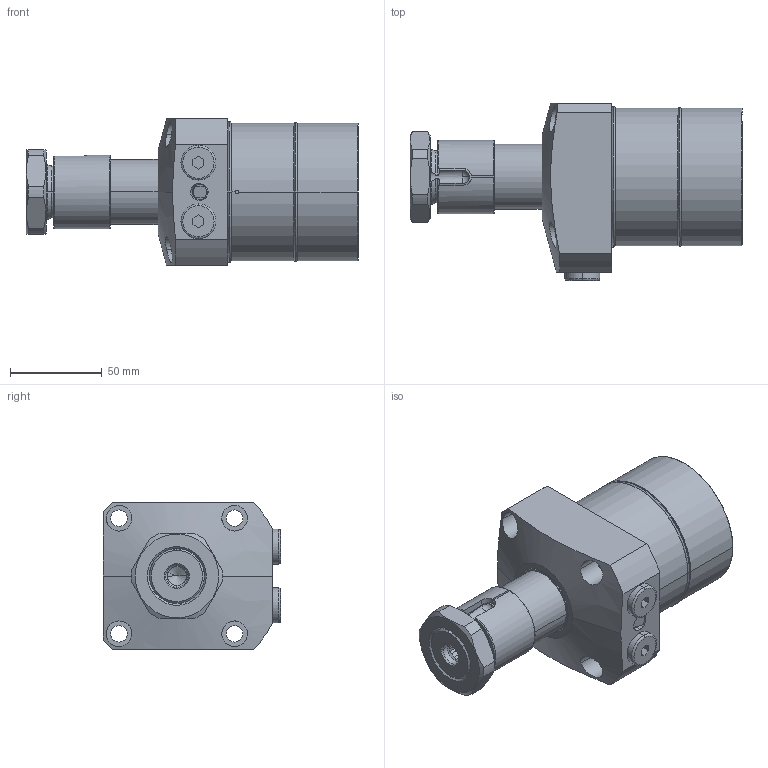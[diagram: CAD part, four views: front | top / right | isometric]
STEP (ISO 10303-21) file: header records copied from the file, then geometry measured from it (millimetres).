
FILE_DESCRIPTION(/* description */ (''),/* implementation_level */ '2;1');
FILE_NAME(/* name */ 'KTRW75-RH.stp',/* time_stamp */ '2022-11-18T13:11:39+08:00',/* author */ (''),/* organization */ (''),/* preprocessor_version */ 'ST-DEVELOPER v16.7',/* originating_system */ 'SIEMENS PLM Software NX 12.0',/* authorisation */ '');
FILE_SCHEMA (('AP203_CONFIGURATION_CONTROLLED_3D_DESIGN_OF_MECHANICAL_PARTS_AND_ASSEMBLIES_MIM_LF { 1 0 10303 403 2 1 2}'));
Length unit declared in the file: millimetre
Products named in the file (7): KTRW75-RH-01; KTRW75-RH-02; KTRW75-RH-03; KTRW75-RH-05; KTRW75-RH-06; KTRW75-RH-04; LHW0751-CLH_step
Assembly tree (9 placements, depth 2):
  LHW0751-CLH_step
    KTRW75-RH-04
    KTRW75-RH-06  x2
    KTRW75-RH-05  x3
    KTRW75-RH-03
    KTRW75-RH-02
    KTRW75-RH-01
Bounding box: 181 x 96.5 x 80 mm (x, y, z)
Volume: 612694.6 mm3; surface area: 79527.5 mm2
Topology: 11 solids, 11 shells, 355 faces, 798 edges, 489 vertices
Faces by surface type: cylinder 103, plane 103, torus 80, cone 67, sphere 2
Entity records: 9391 total; most frequent: CARTESIAN_POINT 1945, DIRECTION 1483, ORIENTED_EDGE 1296, EDGE_CURVE 648, AXIS2_PLACEMENT_3D 626, VERTEX_POINT 401, CIRCLE 332, EDGE_LOOP 321
